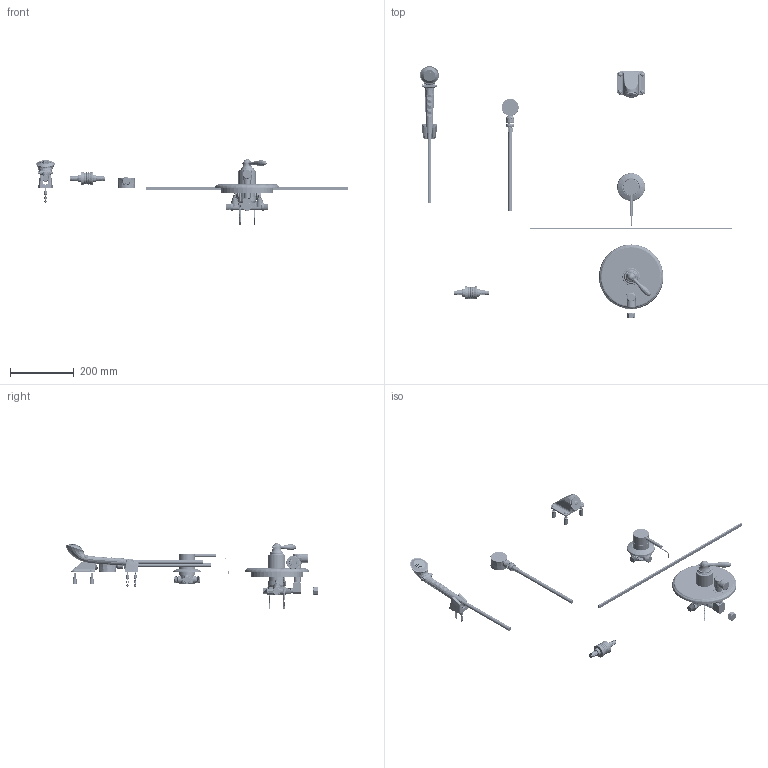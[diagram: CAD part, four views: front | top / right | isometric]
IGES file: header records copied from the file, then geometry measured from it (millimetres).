
Start section:  PTC IGES file: sh-tp4-24-020_rev050323.igs
Global section: file name: sh-tp4-24-020_rev050323.igs; native system: Creo Parametric by PTC Inc.; preprocessor: 2021184; author: rodjo; organization: Unknown; date: 20230503.083707; units: inch
Bounding box: 982.25 x 792.15 x 206.46 mm (x, y, z)
Surface area: 386599.1 mm2 (no closed solid volume)
Topology: 0 solids, 0 shells, 1780 faces, 15625 edges, 21456 vertices
Faces by surface type: revolution 1314, bspline 463, extrusion 3
